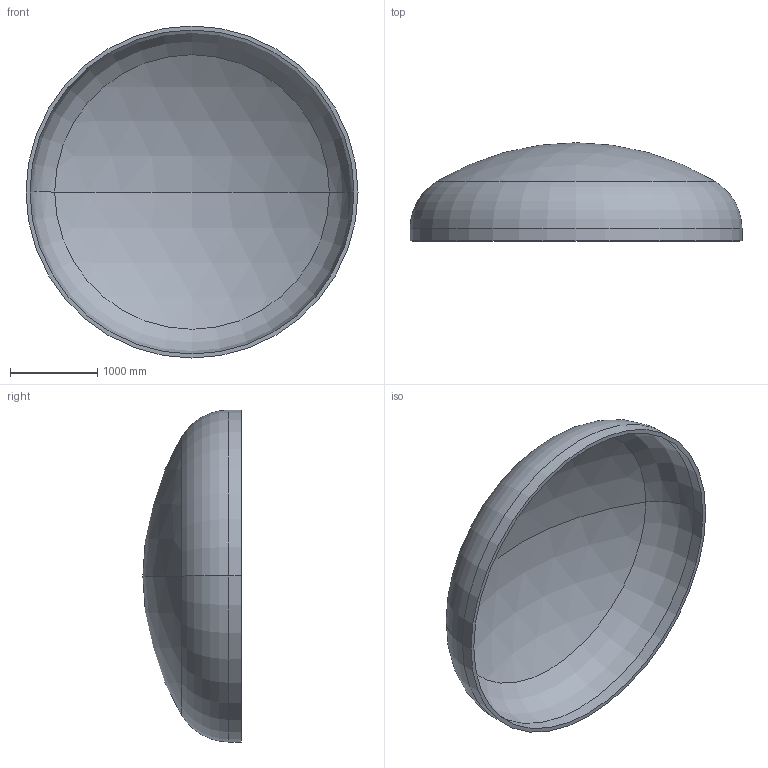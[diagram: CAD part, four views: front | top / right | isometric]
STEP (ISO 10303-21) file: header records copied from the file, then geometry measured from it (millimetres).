
FILE_DESCRIPTION (( 'STEP AP203' ), '1' );
FILE_NAME ('DIN 28013 Korbbogenform_-_Boden DIN 28013 - 3800 x 140 - I - s=46.step', '2016-07-01T21:26:55', ( '' ), ( '' ), 'SwSTEP 2.0', 'SolidWorks 2013', '' );
FILE_SCHEMA (( 'CONFIG_CONTROL_DESIGN' ));
Length unit declared in the file: millimetre
Products named in the file (1): DIN 28013 Korbbogenform_-_Boden DIN 28013 - 3800 x 140 - I - s=46
Bounding box: 3800 x 1124.41 x 3800 mm (x, y, z)
Volume: 786967762.5 mm3; surface area: 34762912 mm2
Topology: 1 solids, 1 shells, 13 faces, 24 edges, 14 vertices
Faces by surface type: torus 4, cylinder 4, sphere 4, plane 1
Entity records: 407 total; most frequent: DIRECTION 72, CARTESIAN_POINT 52, ORIENTED_EDGE 48, AXIS2_PLACEMENT_3D 34, EDGE_CURVE 24, CIRCLE 20, EDGE_LOOP 14, VERTEX_POINT 14
